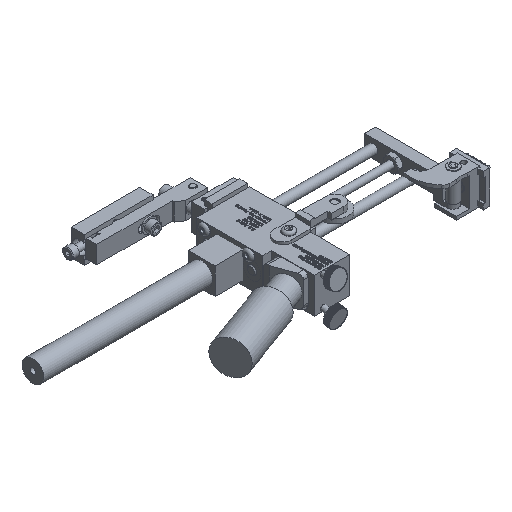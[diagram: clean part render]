
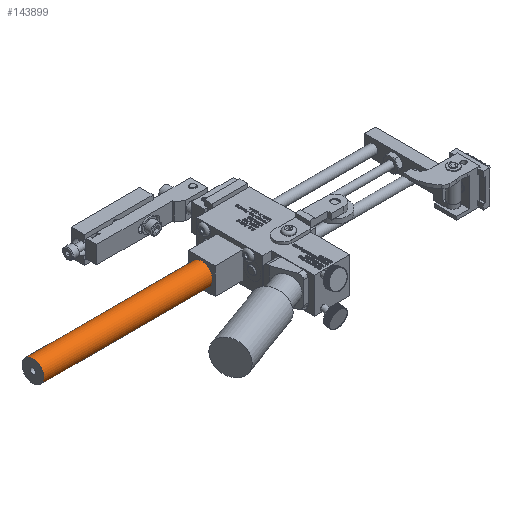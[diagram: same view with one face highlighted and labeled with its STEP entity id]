
A CAD part, isometric view. The second image highlights one B-rep face of the part: STEP entity #143899.
In plain terms, the highlighted cylindrical face has radius 7.747 mm (diameter 15.494 mm), a full revolution.
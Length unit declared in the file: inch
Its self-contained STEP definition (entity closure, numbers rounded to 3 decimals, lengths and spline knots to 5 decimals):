
#143872=CARTESIAN_POINT('',(0.2202,0.36387,0.375));
#143873=DIRECTION('',(1.0,0.,0.0));
#143874=DIRECTION('',(0.0,0.0,1.0));
#143875=AXIS2_PLACEMENT_3D('',#143872,#143873,#143874);
#143876=CYLINDRICAL_SURFACE('',#143875,0.305);
#143877=CARTESIAN_POINT('',(4.9702,0.36387,0.07));
#143878=VERTEX_POINT('',#143877);
#143879=CARTESIAN_POINT('',(4.9702,0.36387,0.375));
#143880=DIRECTION('',(-1.0,0.0,0.0));
#143881=DIRECTION('',(0.0,0.0,1.0));
#143882=AXIS2_PLACEMENT_3D('',#143879,#143880,#143881);
#143883=CIRCLE('',#143882,0.305);
#143884=EDGE_CURVE('',#143878,#143878,#143883,.T.);
#143885=ORIENTED_EDGE('',*,*,#143884,.T.);
#143886=EDGE_LOOP('',(#143885));
#143887=FACE_OUTER_BOUND('',#143886,.T.);
#143888=CARTESIAN_POINT('',(0.2202,0.36387,0.07));
#143889=VERTEX_POINT('',#143888);
#143890=CARTESIAN_POINT('',(0.2202,0.36387,0.375));
#143891=DIRECTION('',(-1.0,0.0,0.0));
#143892=DIRECTION('',(0.0,0.0,1.0));
#143893=AXIS2_PLACEMENT_3D('',#143890,#143891,#143892);
#143894=CIRCLE('',#143893,0.305);
#143895=EDGE_CURVE('',#143889,#143889,#143894,.T.);
#143896=ORIENTED_EDGE('',*,*,#143895,.F.);
#143897=EDGE_LOOP('',(#143896));
#143898=FACE_BOUND('',#143897,.T.);
#143899=ADVANCED_FACE('',(#143887,#143898),#143876,.T.);
